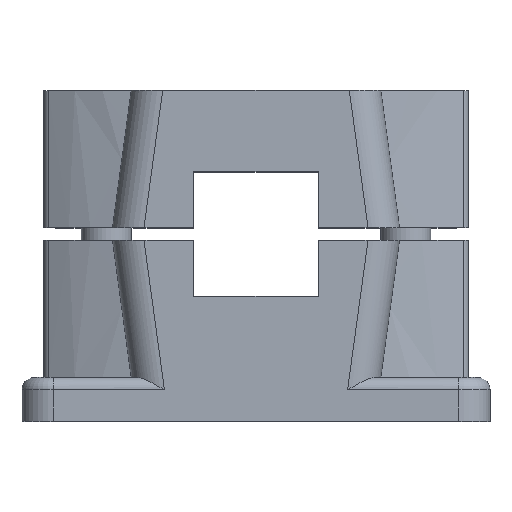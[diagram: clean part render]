
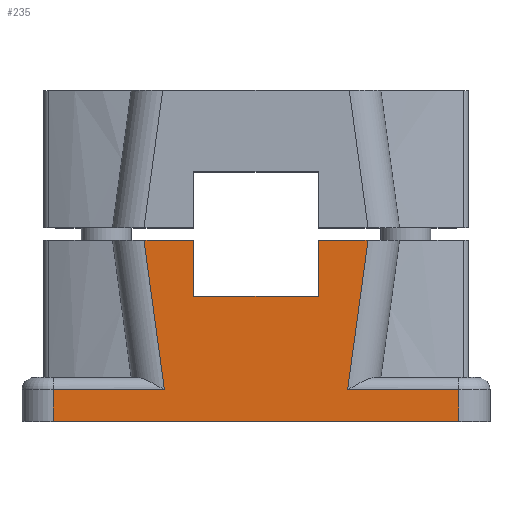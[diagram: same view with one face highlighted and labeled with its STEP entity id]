
A CAD part, top view. The second image highlights one B-rep face of the part: STEP entity #235.
In plain terms, the highlighted planar face has unit normal (0, 0, 1).
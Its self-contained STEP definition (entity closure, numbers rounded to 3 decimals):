
#235 = ADVANCED_FACE( '', ( #676 ), #677, .T. );
#676 = FACE_OUTER_BOUND( '', #1188, .T. );
#677 = PLANE( '', #1189 );
#1188 = EDGE_LOOP( '', ( #2630, #2631, #2632, #2633, #2634, #2635, #2636, #2637, #2638, #2639, #2640, #2641 ) );
#1189 = AXIS2_PLACEMENT_3D( '', #2642, #2643, #2644 );
#2630 = ORIENTED_EDGE( '', *, *, #3654, .F. );
#2631 = ORIENTED_EDGE( '', *, *, #3593, .F. );
#2632 = ORIENTED_EDGE( '', *, *, #3647, .T. );
#2633 = ORIENTED_EDGE( '', *, *, #3610, .F. );
#2634 = ORIENTED_EDGE( '', *, *, #3632, .T. );
#2635 = ORIENTED_EDGE( '', *, *, #3451, .T. );
#2636 = ORIENTED_EDGE( '', *, *, #3485, .F. );
#2637 = ORIENTED_EDGE( '', *, *, #3435, .F. );
#2638 = ORIENTED_EDGE( '', *, *, #3204, .T. );
#2639 = ORIENTED_EDGE( '', *, *, #3635, .F. );
#2640 = ORIENTED_EDGE( '', *, *, #3572, .T. );
#2641 = ORIENTED_EDGE( '', *, *, #3655, .F. );
#2642 = CARTESIAN_POINT( '', ( 0., 0., 25. ) );
#2643 = DIRECTION( '', ( 0., 0., 1. ) );
#2644 = DIRECTION( '', ( 1., 0., 0. ) );
#3204 = EDGE_CURVE( '', #3803, #3801, #3804, .T. );
#3435 = EDGE_CURVE( '', #3803, #4211, #4212, .T. );
#3451 = EDGE_CURVE( '', #4232, #4235, #4237, .T. );
#3485 = EDGE_CURVE( '', #4211, #4235, #4298, .T. );
#3572 = EDGE_CURVE( '', #4448, #4446, #4449, .T. );
#3593 = EDGE_CURVE( '', #4487, #4482, #4489, .T. );
#3610 = EDGE_CURVE( '', #4511, #4509, #4513, .T. );
#3632 = EDGE_CURVE( '', #4511, #4232, #4544, .T. );
#3635 = EDGE_CURVE( '', #4448, #3801, #4547, .F. );
#3647 = EDGE_CURVE( '', #4487, #4509, #4569, .T. );
#3654 = EDGE_CURVE( '', #4482, #4580, #4581, .T. );
#3655 = EDGE_CURVE( '', #4580, #4446, #4582, .T. );
#3801 = VERTEX_POINT( '', #4822 );
#3803 = VERTEX_POINT( '', #4839 );
#3804 = LINE( '', #4840, #4841 );
#4211 = VERTEX_POINT( '', #5409 );
#4212 = LINE( '', #5410, #5411 );
#4232 = VERTEX_POINT( '', #5433 );
#4235 = VERTEX_POINT( '', #5436 );
#4237 = LINE( '', #5438, #5439 );
#4298 = LINE( '', #5515, #5516 );
#4446 = VERTEX_POINT( '', #5721 );
#4448 = VERTEX_POINT( '', #5724 );
#4449 = LINE( '', #5725, #5726 );
#4482 = VERTEX_POINT( '', #5767 );
#4487 = VERTEX_POINT( '', #5774 );
#4489 = LINE( '', #5777, #5778 );
#4509 = VERTEX_POINT( '', #5807 );
#4511 = VERTEX_POINT( '', #5809 );
#4513 = LINE( '', #5826, #5827 );
#4544 = LINE( '', #5872, #5873 );
#4547 = LINE( '', #5878, #5879 );
#4569 = LINE( '', #5907, #5908 );
#4580 = VERTEX_POINT( '', #5925 );
#4581 = LINE( '', #5926, #5927 );
#4582 = LINE( '', #5928, #5929 );
#4822 = CARTESIAN_POINT( '', ( 14.681, -25., 25. ) );
#4839 = CARTESIAN_POINT( '', ( 32.5, -25., 25. ) );
#4840 = CARTESIAN_POINT( '', ( 32.5, -25., 25. ) );
#4841 = VECTOR( '', #6221, 1000. );
#5409 = CARTESIAN_POINT( '', ( 32.5, -30., 25. ) );
#5410 = CARTESIAN_POINT( '', ( 32.5, -25., 25. ) );
#5411 = VECTOR( '', #6590, 1000. );
#5433 = CARTESIAN_POINT( '', ( -32.5, -25., 25. ) );
#5436 = CARTESIAN_POINT( '', ( -32.5, -30., 25. ) );
#5438 = CARTESIAN_POINT( '', ( -32.5, -25., 25. ) );
#5439 = VECTOR( '', #6632, 1000. );
#5515 = CARTESIAN_POINT( '', ( 32.5, -30., 25. ) );
#5516 = VECTOR( '', #6702, 1000. );
#5721 = CARTESIAN_POINT( '', ( 10., -1., 25. ) );
#5724 = CARTESIAN_POINT( '', ( 17.954, -1., 25. ) );
#5725 = CARTESIAN_POINT( '', ( 0., -1., 25. ) );
#5726 = VECTOR( '', #6845, 1000. );
#5767 = CARTESIAN_POINT( '', ( -10., -10., 25. ) );
#5774 = CARTESIAN_POINT( '', ( -10., -1., 25. ) );
#5777 = CARTESIAN_POINT( '', ( -10., 10., 25. ) );
#5778 = VECTOR( '', #6884, 1000. );
#5807 = CARTESIAN_POINT( '', ( -17.954, -1., 25. ) );
#5809 = CARTESIAN_POINT( '', ( -14.681, -25., 25. ) );
#5826 = CARTESIAN_POINT( '', ( -14.669, -25.086, 25. ) );
#5827 = VECTOR( '', #6912, 1000. );
#5872 = CARTESIAN_POINT( '', ( 32.5, -25., 25. ) );
#5873 = VECTOR( '', #6948, 1000. );
#5878 = CARTESIAN_POINT( '', ( 14.669, -25.086, 25. ) );
#5879 = VECTOR( '', #6951, 1000. );
#5907 = CARTESIAN_POINT( '', ( 0., -1., 25. ) );
#5908 = VECTOR( '', #6973, 1000. );
#5925 = CARTESIAN_POINT( '', ( 10., -10., 25. ) );
#5926 = CARTESIAN_POINT( '', ( -10., -10., 25. ) );
#5927 = VECTOR( '', #6980, 1000. );
#5928 = CARTESIAN_POINT( '', ( 10., -10., 25. ) );
#5929 = VECTOR( '', #6981, 1000. );
#6221 = DIRECTION( '', ( -1., 0., 0. ) );
#6590 = DIRECTION( '', ( 0., -1., 0. ) );
#6632 = DIRECTION( '', ( 0., -1., 0. ) );
#6702 = DIRECTION( '', ( -1., 0., 0. ) );
#6845 = DIRECTION( '', ( -1., 0., 0. ) );
#6884 = DIRECTION( '', ( 0., -1., 0. ) );
#6912 = DIRECTION( '', ( -0.135, 0.991, 0. ) );
#6948 = DIRECTION( '', ( -1., 0., 0. ) );
#6951 = DIRECTION( '', ( 0.135, 0.991, 0. ) );
#6973 = DIRECTION( '', ( -1., 0., 0. ) );
#6980 = DIRECTION( '', ( 1., 0., 0. ) );
#6981 = DIRECTION( '', ( 0., 1., 0. ) );
